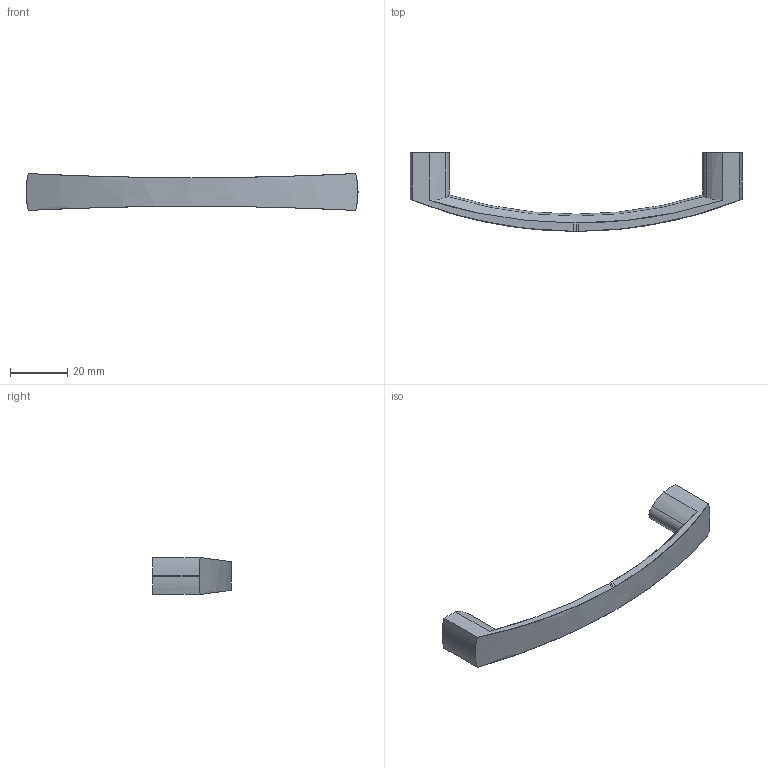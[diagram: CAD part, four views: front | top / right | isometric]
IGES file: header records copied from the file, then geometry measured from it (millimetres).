
Start section: Data from Parasolid IGES Translator 15.0.47, Copyright(c) 2006 Siemens P LM Software. All Rights Reserved.
Global section: file name: 9113431.igs; native system:  By UGS Corp.; preprocessor: XPlus GENERIC/IGES 3.0; author: Noname; organization: Noname; date: 20140122.102342; units: millimetre
Bounding box: 116 x 27.5 x 12.88 mm (x, y, z)
Surface area: 5014.4 mm2 (no closed solid volume)
Topology: 0 solids, 0 shells, 30 faces, 156 edges, 154 vertices
Faces by surface type: revolution 24, extrusion 6
